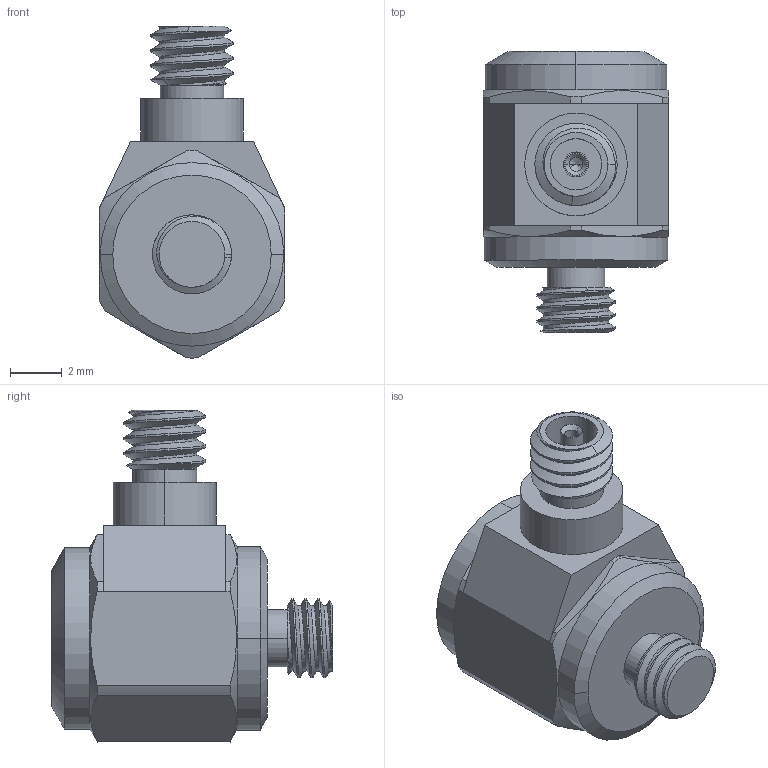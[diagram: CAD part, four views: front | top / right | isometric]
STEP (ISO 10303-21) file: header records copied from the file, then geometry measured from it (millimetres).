
FILE_DESCRIPTION (( 'STEP AP214' ), '1' );
FILE_NAME ('3035M18.STEP', '2018-01-11T16:32:00', ( 'Dytran' ), ( '' ), 'SwSTEP 2.0', 'SolidWorks 2016', '' );
FILE_SCHEMA (( 'AUTOMOTIVE_DESIGN' ));
Length unit declared in the file: inch
Products named in the file (1): 3035M18
Bounding box: 7.14 x 10.85 x 12.81 mm (x, y, z)
Volume: 417.2 mm3; surface area: 415.2 mm2
Topology: 1 solids, 3 shells, 359 faces, 947 edges, 623 vertices
Faces by surface type: plane 181, bspline 109, cylinder 47, cone 22
Entity records: 21451 total; most frequent: CARTESIAN_POINT 8764, ORIENTED_EDGE 1890, DIRECTION 1255, EDGE_CURVE 945, VERTEX_POINT 623, VECTOR 591, LINE 591, EDGE_LOOP 390
